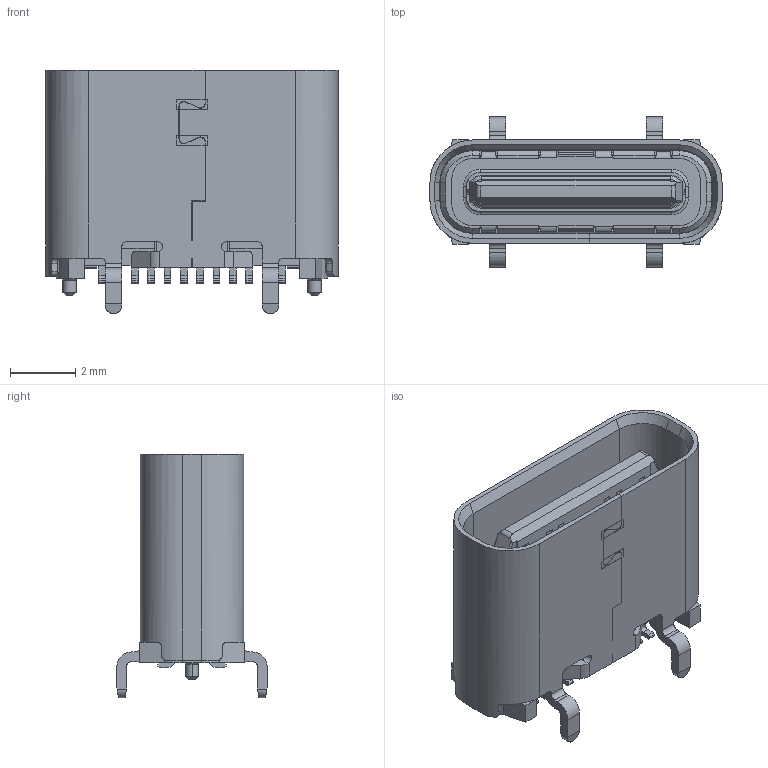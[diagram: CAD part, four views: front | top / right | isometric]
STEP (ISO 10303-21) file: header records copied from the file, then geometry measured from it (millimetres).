
FILE_DESCRIPTION((''),'2;1');
FILE_NAME('1040003','2023-03-13T18:31:59',('Administrator'),(''),'CREO PARAMETRIC BY PTC INC, 2019080','CREO PARAMETRIC BY PTC INC, 2019080','');
FILE_SCHEMA(('CONFIG_CONTROL_DESIGN'));
Length unit declared in the file: millimetre
Products named in the file (1): 1040003
Bounding box: 8.94 x 4.6 x 7.45 mm (x, y, z)
Volume: 84.3 mm3; surface area: 482.3 mm2
Topology: 1 solids, 1 shells, 1030 faces, 2980 edges, 1935 vertices
Faces by surface type: plane 732, cylinder 238, cone 32, torus 18, bspline 10
Entity records: 34472 total; most frequent: CARTESIAN_POINT 7088, ORIENTED_EDGE 5958, DIRECTION 5422, EDGE_CURVE 2979, VECTOR 2328, LINE 2328, VERTEX_POINT 1935, AXIS2_PLACEMENT_3D 1547
